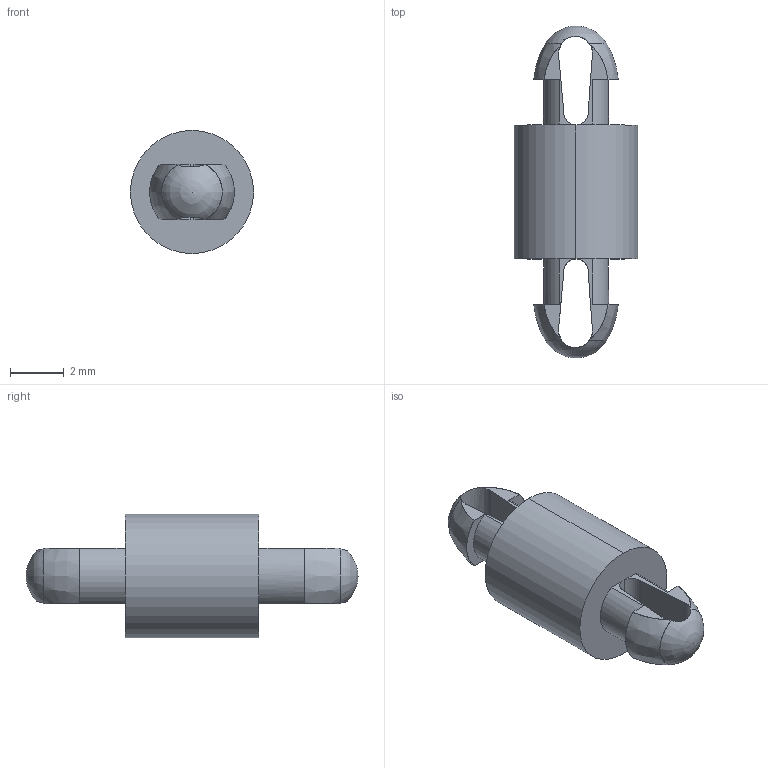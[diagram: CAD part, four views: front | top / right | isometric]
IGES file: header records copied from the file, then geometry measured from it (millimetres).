
Start section: Data from Parasolid IGES Translator 17.0.49, Copyright(c) 2006 Siemens P LM Software. All Rights Reserved.
Global section: file name: MDLSP1-05M-01.igs; native system: By Siemens PLM Incorporated; preprocessor: XPlus GENERIC/IGES 17.0.49; author: Noname; organization: Noname; date: 20171010.021955; units: metre
Bounding box: 4.6 x 12.4 x 4.6 mm (x, y, z)
Surface area: 179.2 mm2 (no closed solid volume)
Topology: 0 solids, 0 shells, 38 faces, 238 edges, 236 vertices
Faces by surface type: bspline 22, revolution 16
